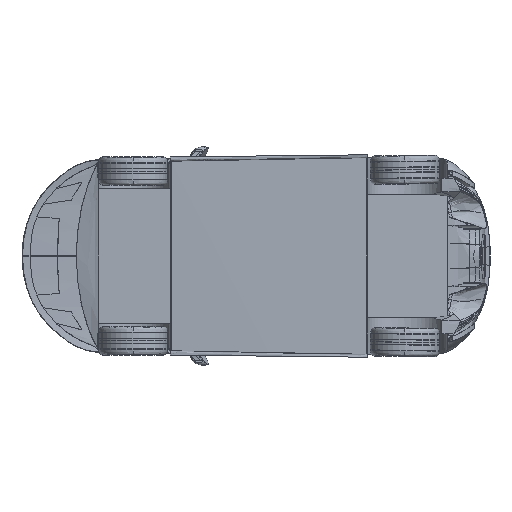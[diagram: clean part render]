
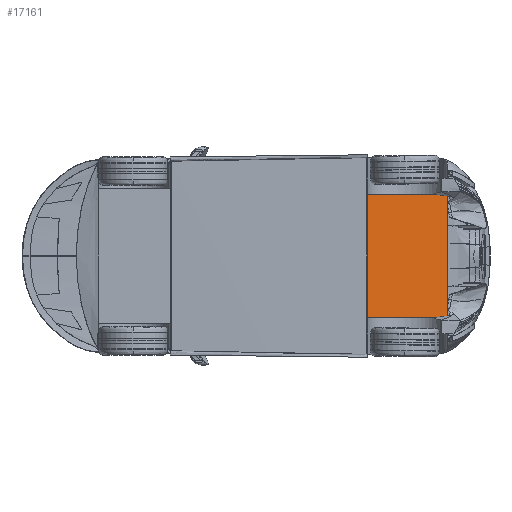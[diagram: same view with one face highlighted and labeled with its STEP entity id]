
A CAD part, front view. The second image highlights one B-rep face of the part: STEP entity #17161.
In plain terms, the highlighted planar face has unit normal (0.074, -0.997, 0).
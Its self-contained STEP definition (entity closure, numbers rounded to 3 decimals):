
#3654 = CARTESIAN_POINT ( 'NONE',  ( 3410.342, 151.88, -1890.626 ) ) ;
#4894 = VECTOR ( 'NONE', #51765, 1000. ) ;
#6796 = FACE_OUTER_BOUND ( 'NONE', #98948, .T. ) ;
#11092 = VERTEX_POINT ( 'NONE', #83439 ) ;
#15042 = VERTEX_POINT ( 'NONE', #3654 ) ;
#17161 = ADVANCED_FACE ( 'NONE', ( #6796 ), #77735, .F. ) ;
#21349 = VECTOR ( 'NONE', #24841, 1000. ) ;
#23174 = ORIENTED_EDGE ( 'NONE', *, *, #52199, .T. ) ;
#24299 = ORIENTED_EDGE ( 'NONE', *, *, #46544, .F. ) ;
#24811 = ORIENTED_EDGE ( 'NONE', *, *, #36626, .F. ) ;
#24841 = DIRECTION ( 'NONE',  ( 0., 0., -1. ) ) ;
#27103 = DIRECTION ( 'NONE',  ( -0.997, -0.074, 0. ) ) ;
#27963 = CARTESIAN_POINT ( 'NONE',  ( 3802.848, 181.203, -1890.681 ) ) ;
#28617 = CARTESIAN_POINT ( 'NONE',  ( 4195.354, 210.526, -1890.736 ) ) ;
#36626 = EDGE_CURVE ( 'NONE', #54991, #15042, #40521, .T. ) ;
#40521 = LINE ( 'NONE', #27963, #83741 ) ;
#43387 = DIRECTION ( 'NONE',  ( -0.997, -0.074, 0. ) ) ;
#44391 = LINE ( 'NONE', #50875, #21349 ) ;
#45460 = LINE ( 'NONE', #103487, #4894 ) ;
#46544 = EDGE_CURVE ( 'NONE', #81547, #54991, #44391, .T. ) ;
#47092 = ORIENTED_EDGE ( 'NONE', *, *, #52525, .T. ) ;
#50875 = CARTESIAN_POINT ( 'NONE',  ( 4195.354, 210.526, -679.595 ) ) ;
#51765 = DIRECTION ( 'NONE',  ( 0., 0., -1. ) ) ;
#52199 = EDGE_CURVE ( 'NONE', #11092, #15042, #45460, .T. ) ;
#52525 = EDGE_CURVE ( 'NONE', #81547, #11092, #65665, .T. ) ;
#53152 = CARTESIAN_POINT ( 'NONE',  ( 3802.848, 181.203, -679.65 ) ) ;
#54991 = VERTEX_POINT ( 'NONE', #28617 ) ;
#65665 = LINE ( 'NONE', #53152, #85952 ) ;
#77735 = PLANE ( 'NONE',  #87951 ) ;
#81547 = VERTEX_POINT ( 'NONE', #102693 ) ;
#83439 = CARTESIAN_POINT ( 'NONE',  ( 3410.342, 151.88, -679.705 ) ) ;
#83741 = VECTOR ( 'NONE', #97046, 1000. ) ;
#85952 = VECTOR ( 'NONE', #27103, 1000. ) ;
#87951 = AXIS2_PLACEMENT_3D ( 'NONE', #94719, #95107, #43387 ) ;
#94719 = CARTESIAN_POINT ( 'NONE',  ( 7.645, -102.327, 0. ) ) ;
#95107 = DIRECTION ( 'NONE',  ( -0.074, 0.997, 0. ) ) ;
#97046 = DIRECTION ( 'NONE',  ( -0.997, -0.074, 0. ) ) ;
#98948 = EDGE_LOOP ( 'NONE', ( #23174, #24811, #24299, #47092 ) ) ;
#102693 = CARTESIAN_POINT ( 'NONE',  ( 4195.354, 210.526, -679.595 ) ) ;
#103487 = CARTESIAN_POINT ( 'NONE',  ( 3410.342, 151.88, -679.705 ) ) ;
